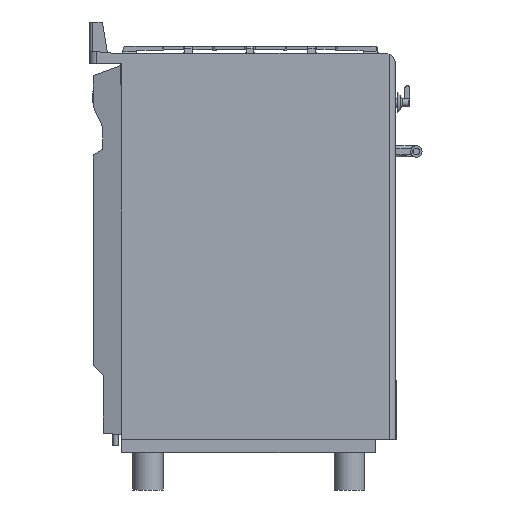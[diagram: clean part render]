
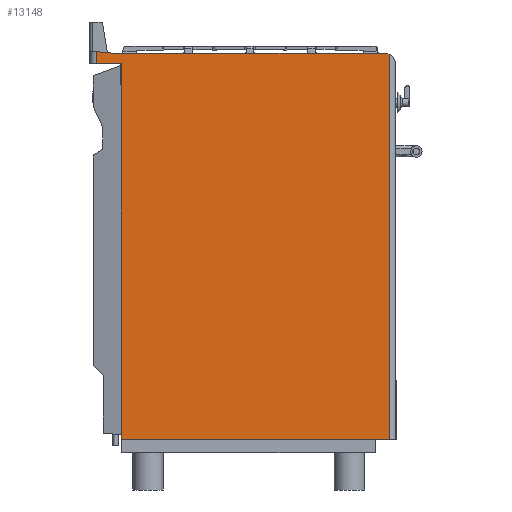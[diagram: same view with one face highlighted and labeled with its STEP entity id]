
A CAD part, front view. The second image highlights one B-rep face of the part: STEP entity #13148.
In plain terms, the highlighted planar face has unit normal (0, -1, 0).
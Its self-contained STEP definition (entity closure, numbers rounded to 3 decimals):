
#1112=CIRCLE('',#16974,20.);
#1852=ORIENTED_EDGE('',*,*,#5626,.T.);
#1853=ORIENTED_EDGE('',*,*,#5604,.T.);
#1854=ORIENTED_EDGE('',*,*,#5514,.T.);
#1855=ORIENTED_EDGE('',*,*,#5512,.T.);
#1856=ORIENTED_EDGE('',*,*,#5502,.F.);
#1857=ORIENTED_EDGE('',*,*,#5493,.F.);
#1858=ORIENTED_EDGE('',*,*,#5625,.F.);
#1859=ORIENTED_EDGE('',*,*,#5627,.T.);
#5493=EDGE_CURVE('',#7455,#7456,#8794,.T.);
#5502=EDGE_CURVE('',#7456,#7460,#8800,.T.);
#5512=EDGE_CURVE('',#7467,#7460,#8807,.T.);
#5514=EDGE_CURVE('',#7468,#7467,#8809,.T.);
#5604=EDGE_CURVE('',#7533,#7468,#1112,.T.);
#5625=EDGE_CURVE('',#7545,#7455,#8877,.T.);
#5626=EDGE_CURVE('',#7546,#7533,#8878,.T.);
#5627=EDGE_CURVE('',#7545,#7546,#8879,.T.);
#7455=VERTEX_POINT('',#22480);
#7456=VERTEX_POINT('',#22482);
#7460=VERTEX_POINT('',#22497);
#7467=VERTEX_POINT('',#22517);
#7468=VERTEX_POINT('',#22521);
#7533=VERTEX_POINT('',#22743);
#7545=VERTEX_POINT('',#22799);
#7546=VERTEX_POINT('',#22803);
#8794=LINE('',#22481,#9833);
#8800=LINE('',#22496,#9839);
#8807=LINE('',#22516,#9846);
#8809=LINE('',#22520,#9848);
#8877=LINE('',#22800,#9916);
#8878=LINE('',#22802,#9917);
#8879=LINE('',#22804,#9918);
#9833=VECTOR('',#18476,1000.);
#9839=VECTOR('',#18492,1000.);
#9846=VECTOR('',#18511,1000.);
#9848=VECTOR('',#18515,1000.);
#9916=VECTOR('',#18735,1000.);
#9917=VECTOR('',#18738,1000.);
#9918=VECTOR('',#18739,1000.);
#10903=EDGE_LOOP('',(#1852,#1853,#1854,#1855,#1856,#1857,#1858,#1859));
#11866=FACE_BOUND('',#10903,.T.);
#12749=PLANE('',#16980);
#13148=ADVANCED_FACE('',(#11866),#12749,.T.);
#16974=AXIS2_PLACEMENT_3D('',#22742,#18709,#18710);
#16980=AXIS2_PLACEMENT_3D('',#22801,#18736,#18737);
#18476=DIRECTION('',(-1.,0.,0.));
#18492=DIRECTION('',(0.,0.,1.));
#18511=DIRECTION('',(-0.996,0.,0.087));
#18515=DIRECTION('',(-1.,0.,0.));
#18709=DIRECTION('',(0.,-1.,0.));
#18710=DIRECTION('',(-0.707,0.,-0.707));
#18735=DIRECTION('',(0.,0.,1.));
#18736=DIRECTION('',(0.,-1.,0.));
#18737=DIRECTION('',(-1.,0.,0.));
#18738=DIRECTION('',(0.,0.,1.));
#18739=DIRECTION('',(1.,0.,0.));
#22480=CARTESIAN_POINT('',(-499.211,482.014,550.39));
#22481=CARTESIAN_POINT('',(19.789,482.014,550.39));
#22482=CARTESIAN_POINT('',(-548.211,482.014,550.39));
#22496=CARTESIAN_POINT('',(-548.211,482.014,550.39));
#22497=CARTESIAN_POINT('',(-548.211,482.014,573.714));
#22516=CARTESIAN_POINT('',(-510.211,482.014,570.39));
#22517=CARTESIAN_POINT('',(-510.211,482.014,570.39));
#22520=CARTESIAN_POINT('',(11.789,482.014,570.39));
#22521=CARTESIAN_POINT('',(11.789,482.014,570.39));
#22742=CARTESIAN_POINT('',(11.789,482.014,550.39));
#22743=CARTESIAN_POINT('',(19.789,482.014,568.72));
#22799=CARTESIAN_POINT('',(-499.211,482.014,-177.61));
#22800=CARTESIAN_POINT('',(-499.211,482.014,-177.61));
#22801=CARTESIAN_POINT('',(-499.211,482.014,-177.61));
#22802=CARTESIAN_POINT('',(19.789,482.014,-177.61));
#22803=CARTESIAN_POINT('',(19.789,482.014,-177.61));
#22804=CARTESIAN_POINT('',(-499.211,482.014,-177.61));
